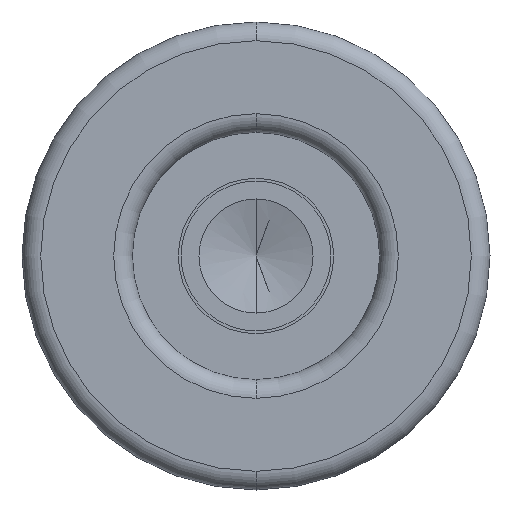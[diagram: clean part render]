
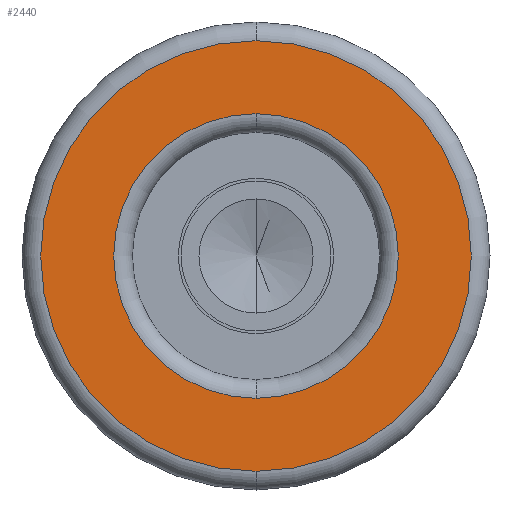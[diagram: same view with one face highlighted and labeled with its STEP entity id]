
A CAD part, front view. The second image highlights one B-rep face of the part: STEP entity #2440.
In plain terms, the highlighted planar face has unit normal (0, -1, 0).
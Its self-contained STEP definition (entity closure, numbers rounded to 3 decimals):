
#48 = EDGE_CURVE ( 'NONE', #4150, #5625, #4574, .T. ) ;
#271 = DIRECTION ( 'NONE',  ( 0., 0., -1. ) ) ;
#416 = CARTESIAN_POINT ( 'NONE',  ( 0., 0., -11.5 ) ) ;
#621 = CIRCLE ( 'NONE', #3442, 11.5 ) ;
#871 = EDGE_CURVE ( 'NONE', #2983, #4158, #1693, .T. ) ;
#1477 = DIRECTION ( 'NONE',  ( 0., 0., -1. ) ) ;
#1693 = CIRCLE ( 'NONE', #6612, 11.5 ) ;
#1850 = EDGE_CURVE ( 'NONE', #4158, #2983, #621, .T. ) ;
#2372 = DIRECTION ( 'NONE',  ( 0., -1., 0. ) ) ;
#2440 = ADVANCED_FACE ( 'NONE', ( #4464, #5201 ), #3552, .T. ) ;
#2743 = DIRECTION ( 'NONE',  ( 0., 0., -1. ) ) ;
#2837 = DIRECTION ( 'NONE',  ( 0., 0., -1. ) ) ;
#2916 = CARTESIAN_POINT ( 'NONE',  ( -6.6, 0., 0. ) ) ;
#2983 = VERTEX_POINT ( 'NONE', #416 ) ;
#3442 = AXIS2_PLACEMENT_3D ( 'NONE', #7619, #2372, #4958 ) ;
#3552 = PLANE ( 'NONE',  #4772 ) ;
#4030 = CARTESIAN_POINT ( 'NONE',  ( 0., 0., 0. ) ) ;
#4124 = CARTESIAN_POINT ( 'NONE',  ( 0., 0., 0. ) ) ;
#4150 = VERTEX_POINT ( 'NONE', #7518 ) ;
#4158 = VERTEX_POINT ( 'NONE', #4717 ) ;
#4424 = EDGE_CURVE ( 'NONE', #5625, #4150, #6349, .T. ) ;
#4464 = FACE_BOUND ( 'NONE', #8191, .T. ) ;
#4494 = ORIENTED_EDGE ( 'NONE', *, *, #4424, .T. ) ;
#4574 = CIRCLE ( 'NONE', #7832, 7.6 ) ;
#4717 = CARTESIAN_POINT ( 'NONE',  ( 0., 0., 11.5 ) ) ;
#4772 = AXIS2_PLACEMENT_3D ( 'NONE', #2916, #4821, #271 ) ;
#4821 = DIRECTION ( 'NONE',  ( 0., -1., 0. ) ) ;
#4958 = DIRECTION ( 'NONE',  ( 0., 0., -1. ) ) ;
#5201 = FACE_OUTER_BOUND ( 'NONE', #5313, .T. ) ;
#5313 = EDGE_LOOP ( 'NONE', ( #6728, #8324 ) ) ;
#5474 = DIRECTION ( 'NONE',  ( 0., 1., 0. ) ) ;
#5625 = VERTEX_POINT ( 'NONE', #6616 ) ;
#5707 = AXIS2_PLACEMENT_3D ( 'NONE', #8142, #5474, #1477 ) ;
#6096 = DIRECTION ( 'NONE',  ( 0., -1., 0. ) ) ;
#6135 = DIRECTION ( 'NONE',  ( 0., 1., 0. ) ) ;
#6349 = CIRCLE ( 'NONE', #5707, 7.6 ) ;
#6446 = ORIENTED_EDGE ( 'NONE', *, *, #48, .T. ) ;
#6612 = AXIS2_PLACEMENT_3D ( 'NONE', #4030, #6096, #2743 ) ;
#6616 = CARTESIAN_POINT ( 'NONE',  ( 0., 0., -7.6 ) ) ;
#6728 = ORIENTED_EDGE ( 'NONE', *, *, #871, .T. ) ;
#7518 = CARTESIAN_POINT ( 'NONE',  ( 0., 0., 7.6 ) ) ;
#7619 = CARTESIAN_POINT ( 'NONE',  ( 0., 0., 0. ) ) ;
#7832 = AXIS2_PLACEMENT_3D ( 'NONE', #4124, #6135, #2837 ) ;
#8142 = CARTESIAN_POINT ( 'NONE',  ( 0., 0., 0. ) ) ;
#8191 = EDGE_LOOP ( 'NONE', ( #4494, #6446 ) ) ;
#8324 = ORIENTED_EDGE ( 'NONE', *, *, #1850, .T. ) ;
